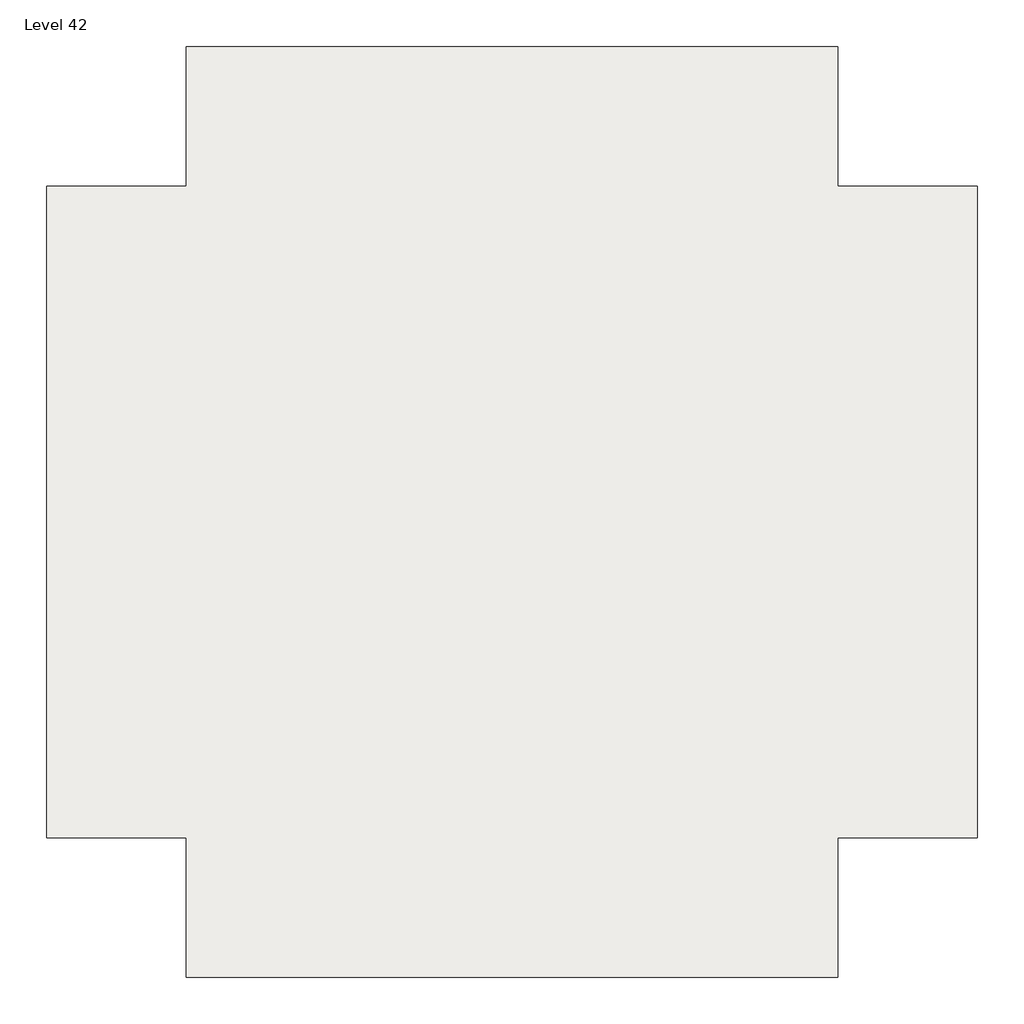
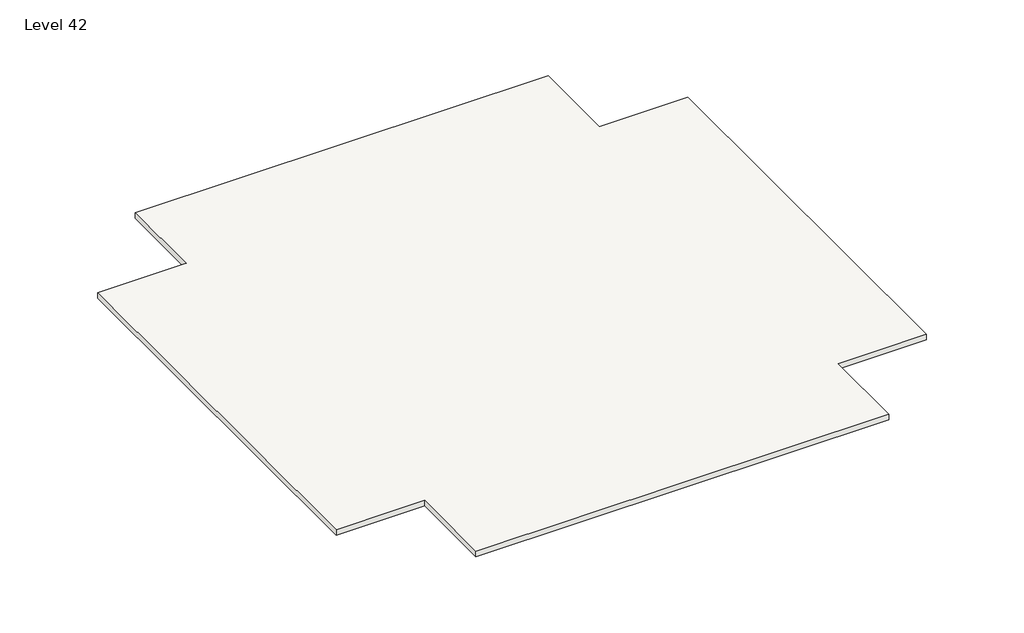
# One storey: 2 slabs.
"""IFC4 building model written with IfcOpenShell, lengths in millimetres."""

import ifcopenshell
import ifcopenshell.guid

model = None  # the IFC model being written
_history = None  # IfcOwnerHistory: only IFC2X3 demands one
_inside = {}  # id of a spatial element -> (the spatial element, [elements in it])
_under = {}  # id of a project, library or spatial element -> (it, [spatial elements below it])
_declared = {}  # id of a project -> (the project, [libraries it declares])
_typed = {}  # id of a type object -> (the type object, [elements of that type])
_made_of = {}  # id of a material, layer set ... -> (it, [elements and type objects made of it])


def new_model(schema):
    """Start an empty IFC model of exactly this schema.

    Asked for "IFC4X3", IfcOpenShell would pick the latest addendum, in which some entities
    have other attributes; the version numbers below select the first issue.
    IFC2X3 requires an IfcOwnerHistory on every rooted entity: one is made here for all.
    """
    global model, _history
    if schema == "IFC4X3":
        model = ifcopenshell.file(schema_version=(4, 3, 0, 0))
    else:
        model = ifcopenshell.file(schema=schema)
    _inside.clear()
    _under.clear()
    _declared.clear()
    _typed.clear()
    _made_of.clear()
    _history = None
    if model.schema == "IFC2X3":
        org = make("IfcOrganization", Name="unknown")
        user = make(
            "IfcPersonAndOrganization",
            ThePerson=make("IfcPerson", FamilyName="unknown"),
            TheOrganization=org,
        )
        app = make(
            "IfcApplication",
            ApplicationDeveloper=org,
            Version="unknown",
            ApplicationFullName="unknown",
            ApplicationIdentifier="unknown",
        )
        _history = make(
            "IfcOwnerHistory",
            OwningUser=user,
            OwningApplication=app,
            ChangeAction="ADDED",
            CreationDate=0,
        )
    return model


def make(cls, **values):
    """One entity of the class cls with the attributes given. An attribute that is None is left unset."""
    return model.create_entity(
        cls, **{name: value for name, value in values.items() if value is not None}
    )


def rooted(cls, **values):
    """An entity with a GlobalId (a new one), such as an element, a storey or a relation."""
    return make(cls, GlobalId=ifcopenshell.guid.new(), OwnerHistory=_history, **values)


def si_unit(unit_type, name, prefix=None):
    """IfcSIUnit, for example si_unit("LENGTHUNIT", "METRE", prefix="MILLI")."""
    return make("IfcSIUnit", UnitType=unit_type, Prefix=prefix, Name=name)


def assignment(units):
    """IfcUnitAssignment: the units of a project."""
    return None if units is None else make("IfcUnitAssignment", Units=units)


def point(xyz):
    """IfcCartesianPoint."""
    return None if xyz is None else make("IfcCartesianPoint", Coordinates=xyz)


def direction(xyz):
    """IfcDirection."""
    return None if xyz is None else make("IfcDirection", DirectionRatios=xyz)


def frame(location, z_axis=None, x_axis=None):
    """IfcAxis2Placement3D, a coordinate frame: its origin and axes. An axis left out is left unset."""
    return make(
        "IfcAxis2Placement3D",
        Location=point(location),
        Axis=direction(z_axis),
        RefDirection=direction(x_axis),
    )


def origin():
    """The frame at (0, 0, 0) with its axes left unset."""
    return frame((0.0, 0.0, 0.0))


def place(relative_to, where):
    """IfcLocalPlacement: puts the frame where relative to a parent placement (None: the world)."""
    return make(
        "IfcLocalPlacement", PlacementRelTo=relative_to, RelativePlacement=where
    )


def context(
    kind, dimensions, precision=None, world=None, true_north=None, identifier=None
):
    """IfcGeometricRepresentationContext, for example the 3D "Model" context."""
    return make(
        "IfcGeometricRepresentationContext",
        ContextIdentifier=identifier,
        ContextType=kind,
        CoordinateSpaceDimension=dimensions,
        Precision=precision,
        WorldCoordinateSystem=world,
        TrueNorth=true_north,
    )


def project(units=None, contexts=None):
    """IfcProject with its units and contexts."""
    return rooted(
        "IfcProject",
        Name="project",
        RepresentationContexts=contexts,
        UnitsInContext=assignment(units),
    )


def spatial(cls, under=None, at=None, **own):
    """A site, building, storey or space (cls), placed at a placement, below another one or the project."""
    s = rooted(cls, ObjectPlacement=at, **own)
    if under is not None:
        _under.setdefault(under.id(), (under, []))[1].append(s)
    return s


def polyline(points):
    """IfcPolyline through the points."""
    return make("IfcPolyline", Points=[point(p) for p in points])


def outline(outer, holes=None, kind="AREA"):
    """IfcArbitraryClosedProfileDef: a profile drawn as a closed curve; with holes, ...WithVoids."""
    if holes is None:
        return make("IfcArbitraryClosedProfileDef", ProfileType=kind, OuterCurve=outer)
    return make(
        "IfcArbitraryProfileDefWithVoids",
        ProfileType=kind,
        OuterCurve=outer,
        InnerCurves=holes,
    )


def extrude(swept, where, along, depth):
    """IfcExtrudedAreaSolid: the profile swept, set in the frame where, extruded along a direction by depth."""
    return make(
        "IfcExtrudedAreaSolid",
        SweptArea=swept,
        Position=where,
        ExtrudedDirection=direction(along),
        Depth=depth,
    )


def shape(context_of_items, identifier, shape_type, items):
    """IfcShapeRepresentation: the items that make up one representation, for example the "Body"."""
    return make(
        "IfcShapeRepresentation",
        ContextOfItems=context_of_items,
        RepresentationIdentifier=identifier,
        RepresentationType=shape_type,
        Items=items,
    )


def made_of(thing, what):
    """Note that an element or type object is made of a material, layer set ...; save() writes the relation."""
    if what is not None:
        _made_of.setdefault(what.id(), (what, []))[1].append(thing)
    return thing


def element(
    cls,
    number,
    at=None,
    inside=None,
    cuts=None,
    type_object=None,
    material=None,
    context=None,
    identifier="Body",
    shape_type=None,
    held_by="IfcProductDefinitionShape",
    body=None,
    shapes=None,
    **own,
):
    """One element of the class cls, such as IfcWall. Its Tag is "e" and its number.

    at: its placement. inside: the storey or other place that contains it. cuts: it is an
    opening in that element (IfcRelVoidsElement). A single representation is given by context,
    identifier, shape_type and body (its items); several are given by shapes. held_by: the class
    of the entity that holds the representations. save() writes the other relations.
    """
    e = rooted(cls, Tag="e%d" % number, ObjectPlacement=at, **own)
    if body is not None:
        shapes = [shape(context, identifier, shape_type, body)]
    if shapes is not None:
        e.Representation = make(held_by, Representations=shapes)
    if inside is not None:
        _inside.setdefault(inside.id(), (inside, []))[1].append(e)
    if cuts is not None:
        rooted(
            "IfcRelVoidsElement", RelatingBuildingElement=cuts, RelatedOpeningElement=e
        )
    if type_object is not None:
        _typed.setdefault(type_object.id(), (type_object, []))[1].append(e)
    return made_of(e, material)


def aggregate(whole, parts):
    """IfcRelAggregates: a whole, such as a stair, and the parts it consists of."""
    return rooted("IfcRelAggregates", RelatingObject=whole, RelatedObjects=parts)


def save(model, path):
    """Write the relations noted so far, then the file.

    IfcRelAggregates (storeys below a building ...), IfcRelContainedInSpatialStructure (elements
    in a storey), IfcRelDefinesByType, IfcRelAssociatesMaterial and IfcRelDeclares: one each for
    every whole, place, type object, material and project.
    """
    for whole, parts in _under.values():
        aggregate(whole, parts)
    for where, things in _inside.values():
        rooted(
            "IfcRelContainedInSpatialStructure",
            RelatedElements=things,
            RelatingStructure=where,
        )
    for kind, things in _typed.values():
        rooted("IfcRelDefinesByType", RelatedObjects=things, RelatingType=kind)
    for what, things in _made_of.values():
        rooted("IfcRelAssociatesMaterial", RelatedObjects=things, RelatingMaterial=what)
    for by, libraries in _declared.values():
        rooted("IfcRelDeclares", RelatingContext=by, RelatedDefinitions=libraries)
    model.write(path)


model = new_model("IFC4")

# Units and contexts
model_context = context("Model", 3, world=origin())
ifc_project = project(units=[si_unit("LENGTHUNIT", "METRE", prefix="MILLI")], contexts=[model_context])

# Site, building, storey
site = spatial("IfcSite", under=ifc_project)
building = spatial("IfcBuilding", under=site)
storey = spatial("IfcBuildingStorey", under=building, Name="Level 42", Elevation=124968.0)

# Slabs
placement = place(None, origin())
element("IfcSlab", 1, ObjectType="Generic - 12\"", at=placement, inside=storey, context=model_context, shape_type="SweptSolid", body=[
    extrude(outline(polyline([(-7150.3629456, 4479.6634547), (-7150.3629456, 9051.6634547), (14185.6370544, 9051.6634547), (14185.6370544, 4479.6634547), (18757.6370544, 4479.6634547), (18757.6370544, -16856.3365453), (14185.6370544, -16856.3365453), (14185.6370544, -21428.3365453), (-7150.3629456, -21428.3365453), (-7150.3629456, -16856.3365453), (-11722.3629456, -16856.3365453), (-11722.3629456, 4479.6634547), (-7150.3629456, 4479.6634547)])), frame((0.0, 0.0, 124663.2), z_axis=(0.0, 0.0, 1.0), x_axis=(1.0, 0.0, 0.0)), (0.0, 0.0, 1.0), 304.8),
])
element("IfcSlab", 2, ObjectType="Generic - 12\"", at=placement, inside=storey, context=model_context, shape_type="SweptSolid", body=[
    extrude(outline(polyline([(-7150.3629456, 4479.6634547), (-7150.3629456, 9051.6634547), (14185.6370544, 9051.6634547), (14185.6370544, 4479.6634547), (18757.6370544, 4479.6634547), (18757.6370544, -16856.3365453), (14185.6370544, -16856.3365453), (14185.6370544, -21428.3365453), (-7150.3629456, -21428.3365453), (-7150.3629456, -16856.3365453), (-11722.3629456, -16856.3365453), (-11722.3629456, 4479.6634547), (-7150.3629456, 4479.6634547)])), frame((0.0, 0.0, 124663.2), z_axis=(0.0, 0.0, 1.0), x_axis=(1.0, 0.0, 0.0)), (0.0, 0.0, 1.0), 304.8),
])

save(model, "model.ifc")
